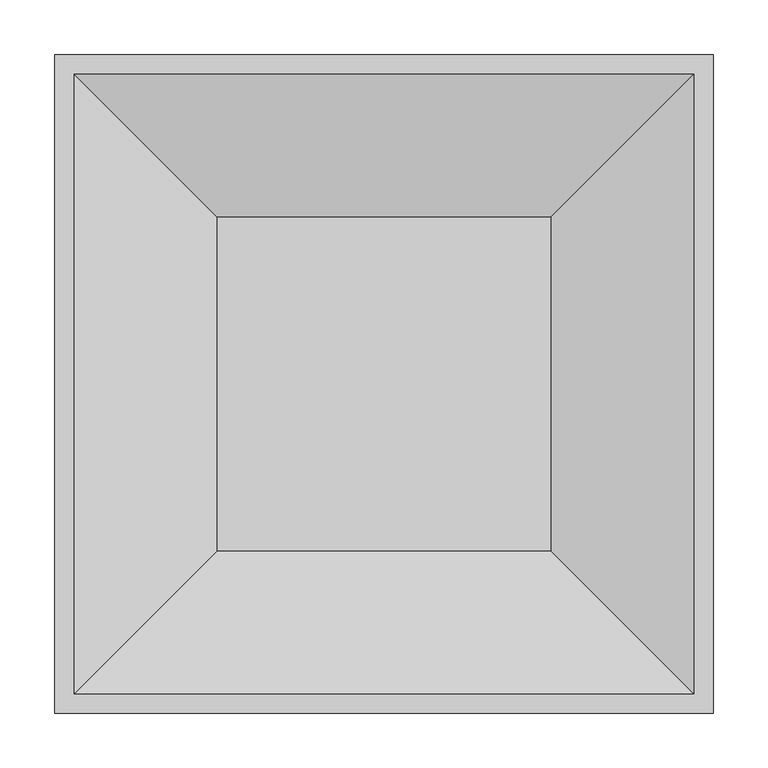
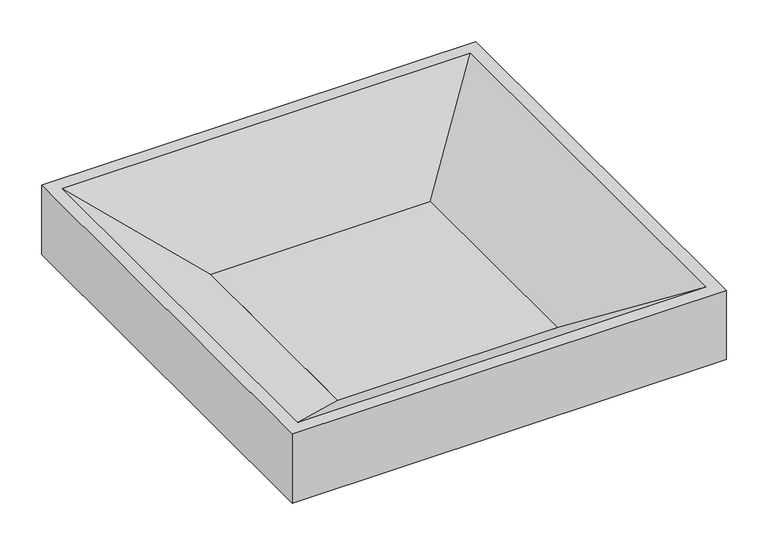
"""IFC4 building model written with IfcOpenShell, lengths in millimetres: proxy geometry, Turf_Pantheon Tile : Pantheon A."""

from ifc_helpers import new_model, si_unit, origin, origin_with_axes, place, context, project, spatial, polyline, outline, extrude, faceted_brep, source, transform, mapped, element, save


def specialty_equipment_1066766c(model_context):
    return source(origin(), model_context, "Body", "SolidModel", [
        extrude(outline(polyline([(196.05625, -495.3), (-108.74375, -495.3), (-108.74375, -190.5), (196.05625, -190.5), (196.05625, -495.3)])), origin_with_axes(), (0.0, 0.0, 1.0), 9.0289063),
        faceted_brep([(196.05625, -495.3, 9.0289062), (326.5289063, -625.7726563, 101.6), (326.5289063, -60.0273438, 101.6), (196.05625, -190.5, 9.0289062), (-239.2164062, -60.0273438, 101.6), (-108.74375, -190.5, 9.0289062), (-239.2164062, -625.7726563, 101.6), (-108.74375, -495.3, 9.0289062), (344.4875, -42.06875, 101.6), (-257.175, -42.06875, 101.6), (-257.175, -643.73125, 101.6), (344.4875, -643.73125, 101.6), (344.4875, -42.06875, 0.0), (344.4875, -643.73125, 0.0), (-257.175, -643.73125, 0.0), (-257.175, -42.06875, 0.0), (196.05625, -495.3, 0.0), (196.05625, -190.5, 0.0), (-108.74375, -190.5, 0.0), (-108.74375, -495.3, 0.0)], [[[0, 1, 2, 3]], [[3, 2, 4, 5]], [[5, 4, 6, 7]], [[1, 0, 7, 6]], [[8, 9, 10, 11], [2, 1, 6, 4]], [[12, 13, 14, 15], [16, 17, 18, 19]], [[9, 8, 12, 15]], [[10, 9, 15, 14]], [[11, 10, 14, 13]], [[8, 11, 13, 12]], [[3, 17, 16, 0]], [[17, 3, 5, 18]], [[18, 5, 7, 19]], [[0, 16, 19, 7]]]),
    ])


if __name__ == "__main__":
    model = new_model("IFC4")
    model_context = context("Model", 3, world=origin())
    ifc_project = project(units=[si_unit("LENGTHUNIT", "METRE", prefix="MILLI")], contexts=[model_context])
    site = spatial("IfcSite", under=ifc_project)
    building = spatial("IfcBuilding", under=site)
    placement = place(None, origin())
    specialty_equipment_shape = specialty_equipment_1066766c(model_context)
    element("IfcBuildingElementProxy", 1, Name="Turf_Pantheon Tile : Pantheon A", ObjectType="Turf_Pantheon Tile : Pantheon A", at=placement, inside=building, context=model_context, shape_type="MappedRepresentation", body=[
        mapped(specialty_equipment_shape, transform((0.0, 0.0, 0.0), x_axis=(1.0, 0.0, 0.0), y_axis=(0.0, 1.0, 0.0), z_axis=(0.0, 0.0, 1.0))),
    ])
    save(model, "model.ifc")
